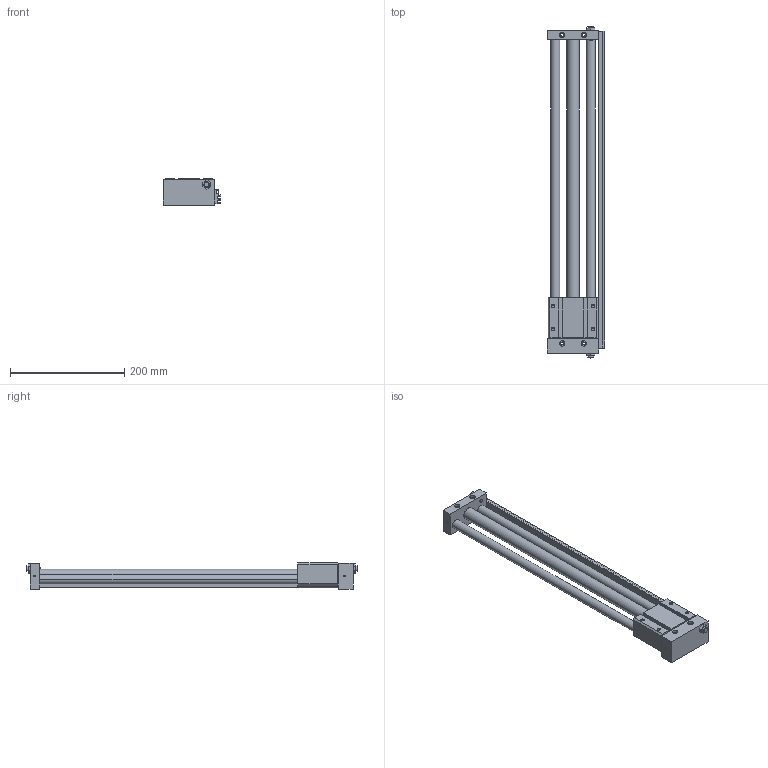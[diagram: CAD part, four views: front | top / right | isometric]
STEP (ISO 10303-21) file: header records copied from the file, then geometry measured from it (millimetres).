
FILE_DESCRIPTION((''),'2;1');
FILE_NAME('C:\Documents and Settings\Administrator\桌面\GYS\GYS20\GYSR20X450.stp','2012-03-06T20:21:08',('Administrator'),(''),'Autodesk Inventor 8','Autodesk Inventor 8','');
FILE_SCHEMA(('AUTOMOTIVE_DESIGN { 1 0 10303 214 1 1 1 1 }'));
Length unit declared in the file: millimetre
Products named in the file (3): GYSR20X450; GYS20X450; GYS20160X450
Assembly tree (2 placements, depth 2):
  GYSR20X450
    GYS20X450
    GYS20160X450
Bounding box: 100.5 x 581 x 46 mm (x, y, z)
Volume: 850369 mm3; surface area: 197001.5 mm2
Topology: 2 solids, 2 shells, 243 faces, 626 edges, 408 vertices
Faces by surface type: plane 133, cylinder 76, cone 28, bspline 6
Entity records: 7564 total; most frequent: CARTESIAN_POINT 1356, DIRECTION 1306, ORIENTED_EDGE 1252, EDGE_CURVE 626, AXIS2_PLACEMENT_3D 438, VECTOR 430, LINE 430, VERTEX_POINT 408
